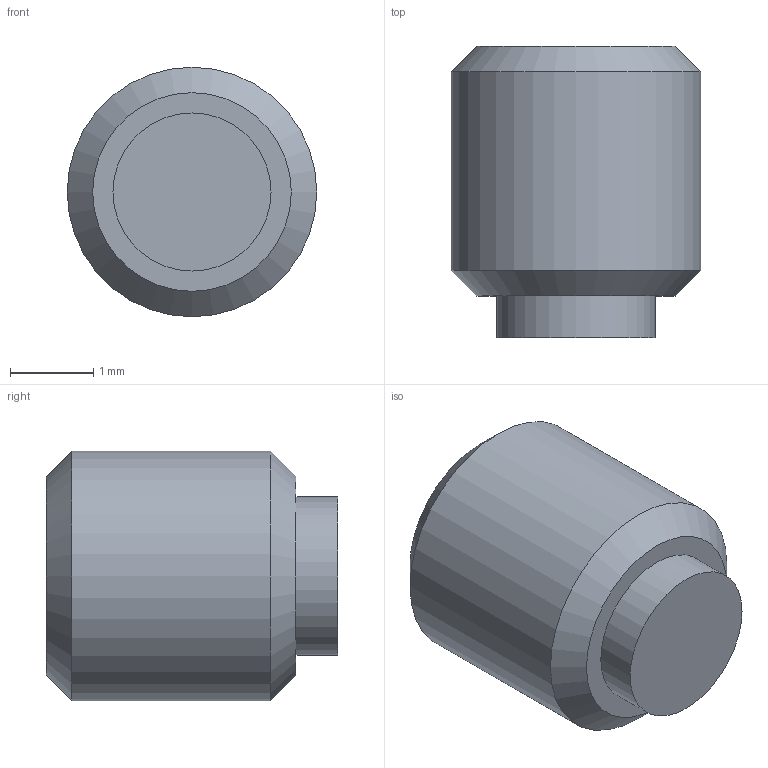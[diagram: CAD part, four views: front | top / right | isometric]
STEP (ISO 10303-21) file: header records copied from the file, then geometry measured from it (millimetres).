
FILE_DESCRIPTION( ( 'STEP AP203' ), '1' );
FILE_NAME( 'C:/Temp/Ganter_Step_05_03_2020/data/3_2/gn913_3/Grub screw GN 913.3-M3-3-MS.stp', '2020-03-13T05:35:42', ( 'License CC BY-ND 4.0' ), ( 'CADENAS' ), ' ', 'PARTsolutions', ' ' );
FILE_SCHEMA( ( 'CONFIG_CONTROL_DESIGN' ) );
Length unit declared in the file: millimetre
Products named in the file (1): _Grub screw GN 913.3-M3-3-MS
Bounding box: 3 x 3.5 x 3 mm (x, y, z)
Volume: 18.9 mm3; surface area: 49.6 mm2
Topology: 1 solids, 1 shells, 14 faces, 28 edges, 18 vertices
Faces by surface type: plane 10, cylinder 2, cone 2
Full cylindrical faces by diameter (mm): 1.9 x1, 3 x1
Entity records: 386 total; most frequent: DIRECTION 60, CARTESIAN_POINT 57, ORIENTED_EDGE 48, EDGE_CURVE 24, AXIS2_PLACEMENT_3D 21, EDGE_LOOP 20, VERTEX_POINT 18, LINE 18
